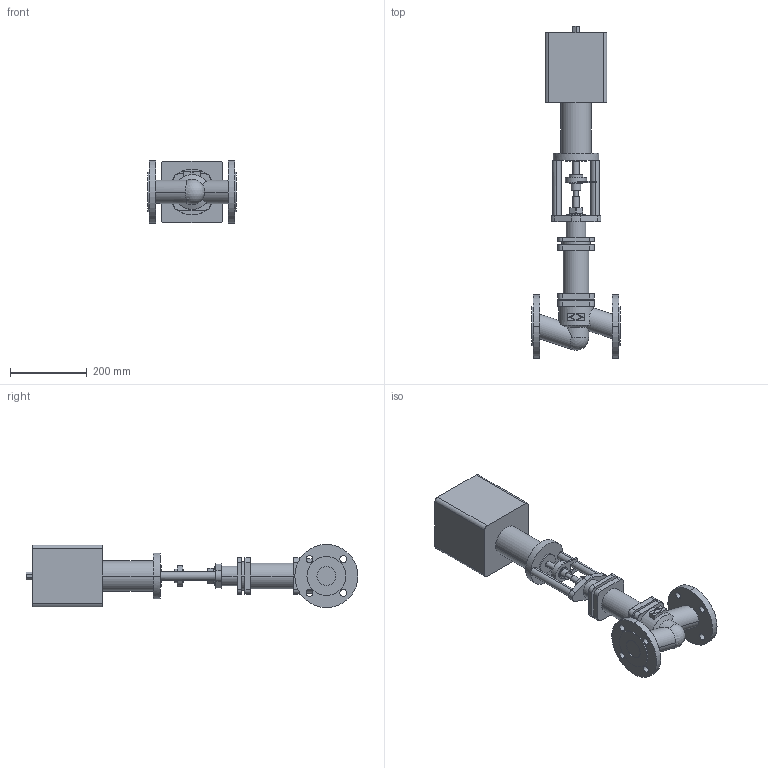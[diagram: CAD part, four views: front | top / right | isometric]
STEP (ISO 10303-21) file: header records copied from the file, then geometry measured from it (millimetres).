
FILE_DESCRIPTION( ( '' ), '1' );
FILE_NAME( 'F:/DE-SHS/TB/OR/04-Sonstiges/daten/files_3d/441-FR2.2/441-PN40-FR2_2/c000004568.stp', '2014-11-06T11:30:54', ( '' ), ( '' ), ' ', ' ', ' ' );
FILE_SCHEMA( ( 'CONFIG_CONTROL_DESIGN' ) );
Length unit declared in the file: millimetre
Products named in the file (2): 1; 2
Bounding box: 230 x 867.5 x 165 mm (x, y, z)
Volume: 8629847 mm3; surface area: 518417.9 mm2
Topology: 2 solids, 2 shells, 202 faces, 497 edges, 329 vertices
Faces by surface type: cylinder 102, plane 97, cone 2, sphere 1
Entity records: 6619 total; most frequent: CARTESIAN_POINT 1524, DIRECTION 1105, ORIENTED_EDGE 990, EDGE_CURVE 495, AXIS2_PLACEMENT_3D 420, VERTEX_POINT 329, LINE 265, VECTOR 265
